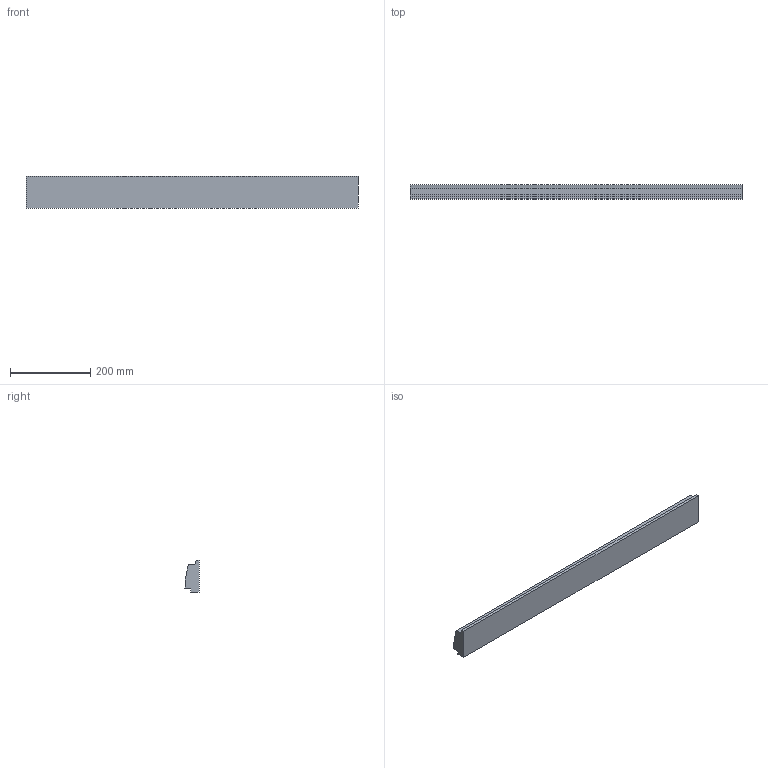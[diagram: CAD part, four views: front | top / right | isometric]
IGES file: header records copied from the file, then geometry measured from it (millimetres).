
Global section: file name: raio 1.igs; native system: NX V2312; preprocessor: SIEMENS PLM Software NX2312.5001; date: 20240809.190858; units: millimetre
Bounding box: 830 x 35 x 80 mm (x, y, z)
Surface area: 186413.2 mm2 (no closed solid volume)
Topology: 0 solids, 0 shells, 10 faces, 48 edges, 48 vertices
Faces by surface type: bspline 10
